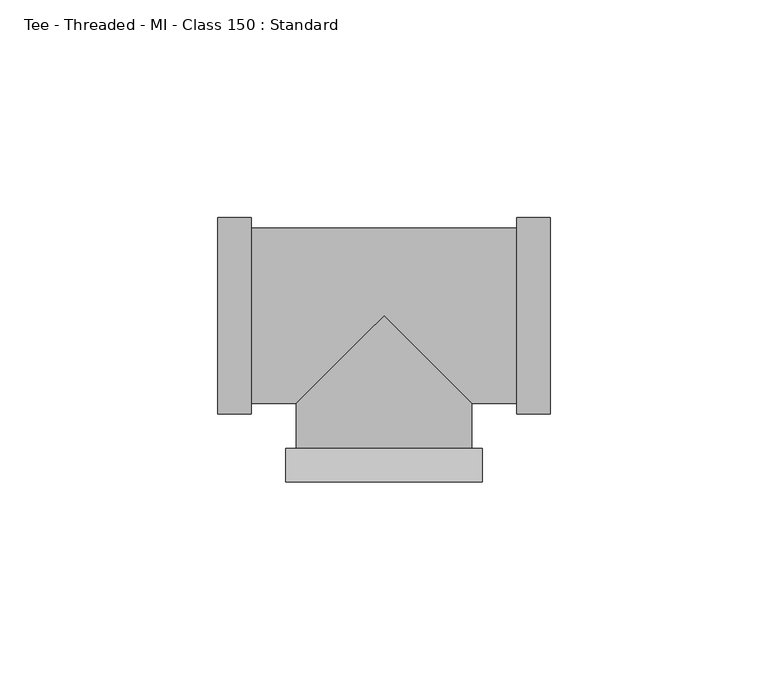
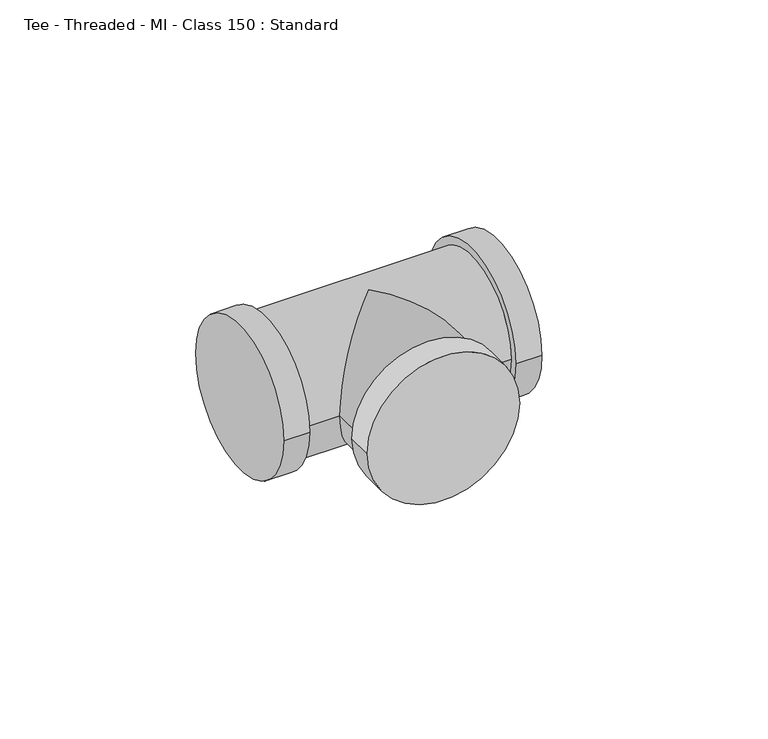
"""IFC4 building model written with IfcOpenShell, lengths in millimetres: pipe fitting geometry, Tee - Threaded - MI - Class 150 : Standard."""

from ifc_helpers import new_model, si_unit, frame, origin, place, context, project, spatial, circle_curve, ellipse_curve, source, transform, mapped, element, save
from ifc_brep_helpers import plane_surface, cylinder_surface, advanced_brep


def tee_threaded_mi_class_150_standard_96690291(model_context):
    return source(origin(), model_context, "Body", "AdvancedBrep", [
        advanced_brep(
        [(22.5, -38.1, 0.0), (-22.5, -38.1, 0.0), (22.5, -30.4, 0.0), (-22.5, -30.4, 0.0), (20.1, -30.4, 0.0), (-20.1, -30.4, 0.0), (20.1, -20.1, 0.0), (0.0, 0.0, 20.1), (-20.1, -20.1, 0.0), (0.0, 0.0, -20.1), (-38.1, -22.5, 0.0), (-38.1, 22.5, 0.0), (-30.4, -22.5, 0.0), (-30.4, 22.5, 0.0), (-30.4, -20.1, 0.0), (-30.4, 20.1, 0.0), (30.4, -22.5, 0.0), (30.4, 22.5, 0.0), (30.4, 20.1, 0.0), (30.4, -20.1, 0.0), (38.1, -22.5, 0.0), (38.1, 22.5, 0.0)],
        [
            (0, 1, circle_curve(frame((0.0, -38.1, 0.0), z_axis=(0.0, -1.0, 0.0), x_axis=(-1.0, 0.0, 0.0)), 22.5)),
            (1, 0, circle_curve(frame((0.0, -38.1, 0.0), z_axis=(0.0, -1.0, 0.0), x_axis=(-1.0, 0.0, 0.0)), 22.5)),
            (2, 3, circle_curve(frame((0.0, -30.4, 0.0), z_axis=(0.0, 1.0, 0.0), x_axis=(-1.0, 0.0, 0.0)), 22.5)),
            (3, 2, circle_curve(frame((0.0, -30.4, 0.0), z_axis=(0.0, 1.0, 0.0), x_axis=(-1.0, 0.0, 0.0)), 22.5)),
            (4, 5, circle_curve(frame((0.0, -30.4, 0.0), z_axis=(0.0, -1.0, 0.0), x_axis=(1.0, 0.0, 0.0)), 20.1)),
            (5, 4, circle_curve(frame((0.0, -30.4, 0.0), z_axis=(0.0, -1.0, 0.0), x_axis=(1.0, 0.0, 0.0)), 20.1)),
            (0, 2),
            (3, 1),
            (4, 6),
            (6, 7, ellipse_curve(frame((0.0, 0.0, 0.0), z_axis=(-0.707106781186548, -0.7071067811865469, 0.0), x_axis=(-0.7071067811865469, 0.7071067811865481, 0.0)), 28.4256926, 20.1)),
            (7, 8, ellipse_curve(frame((0.0, 0.0, 0.0), z_axis=(0.7071067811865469, -0.7071067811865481, 0.0), x_axis=(0.707106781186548, 0.7071067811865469, 0.0)), 28.4256926, 20.1)),
            (8, 5),
            (8, 9, ellipse_curve(frame((0.0, 0.0, 0.0), z_axis=(0.7071067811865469, -0.7071067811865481, 0.0), x_axis=(0.707106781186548, 0.7071067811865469, 0.0)), 28.4256926, 20.1)),
            (9, 6, ellipse_curve(frame((0.0, 0.0, 0.0), z_axis=(-0.707106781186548, -0.7071067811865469, 0.0), x_axis=(-0.7071067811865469, 0.7071067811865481, 0.0)), 28.4256926, 20.1)),
            (10, 11, circle_curve(frame((-38.1, 0.0, 0.0), z_axis=(-1.0, 0.0, 0.0), x_axis=(0.0, 1.0, 0.0)), 22.5)),
            (11, 10, circle_curve(frame((-38.1, 0.0, 0.0), z_axis=(-1.0, 0.0, 0.0), x_axis=(0.0, 1.0, 0.0)), 22.5)),
            (12, 13, circle_curve(frame((-30.4, 0.0, 0.0), z_axis=(1.0, 0.0, 0.0), x_axis=(0.0, 1.0, 0.0)), 22.5)),
            (13, 12, circle_curve(frame((-30.4, 0.0, 0.0), z_axis=(1.0, 0.0, 0.0), x_axis=(0.0, 1.0, 0.0)), 22.5)),
            (14, 15, circle_curve(frame((-30.4, 0.0, 0.0), z_axis=(-1.0, 0.0, 0.0), x_axis=(0.0, 1.0, 0.0)), 20.1)),
            (15, 14, circle_curve(frame((-30.4, 0.0, 0.0), z_axis=(-1.0, 0.0, 0.0), x_axis=(0.0, 1.0, 0.0)), 20.1)),
            (10, 12),
            (13, 11),
            (16, 17, circle_curve(frame((30.4, 0.0, 0.0), z_axis=(-1.0, 0.0, 0.0), x_axis=(0.0, 1.0, 0.0)), 22.5)),
            (17, 16, circle_curve(frame((30.4, 0.0, 0.0), z_axis=(-1.0, 0.0, 0.0), x_axis=(0.0, 1.0, 0.0)), 22.5)),
            (18, 19, circle_curve(frame((30.4, 0.0, 0.0), z_axis=(1.0, 0.0, 0.0), x_axis=(0.0, 1.0, 0.0)), 20.1)),
            (19, 18, circle_curve(frame((30.4, 0.0, 0.0), z_axis=(1.0, 0.0, 0.0), x_axis=(0.0, 1.0, 0.0)), 20.1)),
            (20, 21, circle_curve(frame((38.1, 0.0, 0.0), z_axis=(1.0, 0.0, 0.0), x_axis=(0.0, 1.0, 0.0)), 22.5)),
            (21, 20, circle_curve(frame((38.1, 0.0, 0.0), z_axis=(1.0, 0.0, 0.0), x_axis=(0.0, 1.0, 0.0)), 22.5)),
            (16, 20),
            (21, 17),
            (18, 15),
            (14, 8),
            (6, 19),
        ],
        [
            plane_surface(frame((0.0, -38.1, 0.0), z_axis=(0.0, -1.0, 0.0), x_axis=(0.0, 0.0, 1.0))),
            plane_surface(frame((0.0, -30.4, 0.0), z_axis=(0.0, 1.0, 0.0), x_axis=(0.0, 0.0, 1.0))),
            cylinder_surface(frame((0.0, -38.1, 0.0), z_axis=(0.0, -1.0, 0.0), x_axis=(-1.0, 0.0, 0.0)), 22.5),
            cylinder_surface(frame((0.0, 0.0, 0.0), z_axis=(0.0, 1.0, 0.0), x_axis=(1.0, 0.0, 0.0)), 20.1),
            plane_surface(frame((-38.1, 0.0, 0.0), z_axis=(-1.0, 0.0, 0.0), x_axis=(0.0, 0.0, 1.0))),
            plane_surface(frame((-30.4, 0.0, 0.0), z_axis=(1.0, 0.0, 0.0), x_axis=(0.0, 0.0, 1.0))),
            cylinder_surface(frame((-38.1, 0.0, 0.0), z_axis=(-1.0, 0.0, 0.0), x_axis=(0.0, 1.0, 0.0)), 22.5),
            plane_surface(frame((30.4, 0.0, 0.0), z_axis=(-1.0, 0.0, 0.0), x_axis=(0.0, 0.0, 1.0))),
            plane_surface(frame((38.1, 0.0, 0.0), z_axis=(1.0, 0.0, 0.0), x_axis=(0.0, 0.0, 1.0))),
            cylinder_surface(frame((30.4, 0.0, 0.0), z_axis=(-1.0, 0.0, 0.0), x_axis=(0.0, 1.0, 0.0)), 22.5),
            cylinder_surface(frame((-30.4, 0.0, 0.0), z_axis=(-1.0, 0.0, 0.0), x_axis=(0.0, 1.0, 0.0)), 20.1),
        ],
        [
            (0, [[1, 2]]),
            (1, [[3, 4], [5, 6]]),
            (2, [[-1, 7, -4, 8]]),
            (2, [[-2, -8, -3, -7]]),
            (3, [[-5, 9, 10, 11, 12]]),
            (3, [[-6, -12, 13, 14, -9]]),
            (4, [[15, 16]]),
            (5, [[17, 18], [19, 20]]),
            (6, [[-15, 21, -18, 22]]),
            (6, [[-16, -22, -17, -21]]),
            (7, [[23, 24], [25, 26]]),
            (8, [[27, 28]]),
            (9, [[-23, 29, -28, 30]]),
            (9, [[-24, -30, -27, -29]]),
            (10, [[31, -19, 32, -11, -10, 33, -25]]),
            (10, [[-31, -26, -33, -14, -13, -32, -20]]),
        ],
    ),
    ])


if __name__ == "__main__":
    model = new_model("IFC4")
    model_context = context("Model", 3, world=origin())
    ifc_project = project(units=[si_unit("LENGTHUNIT", "METRE", prefix="MILLI")], contexts=[model_context])
    site = spatial("IfcSite", under=ifc_project)
    building = spatial("IfcBuilding", under=site)
    placement = place(None, origin())
    tee_threaded_mi_class_150_standard_shape = tee_threaded_mi_class_150_standard_96690291(model_context)
    element("IfcPipeFitting", 1, ObjectType="Tee - Threaded - MI - Class 150 : Standard", at=placement, inside=building, context=model_context, shape_type="MappedRepresentation", body=[
        mapped(tee_threaded_mi_class_150_standard_shape, transform((0.0, 0.0, 0.0), x_axis=(1.0, 0.0, 0.0), y_axis=(0.0, 1.0, 0.0), z_axis=(0.0, 0.0, 1.0))),
    ])
    save(model, "model.ifc")
